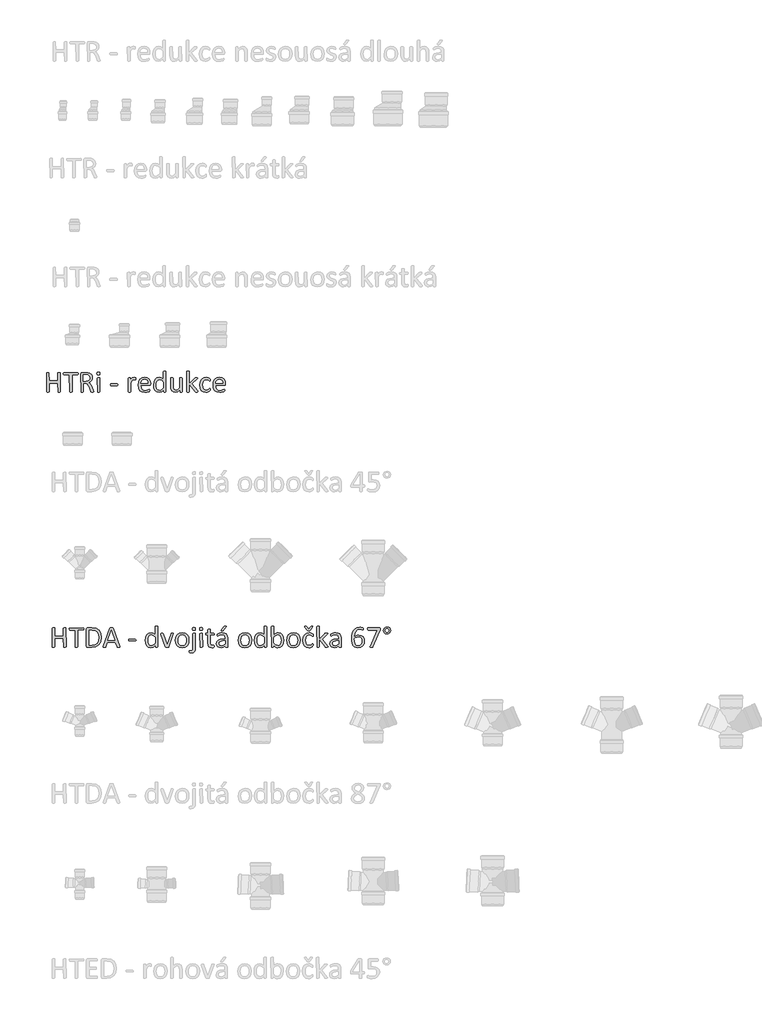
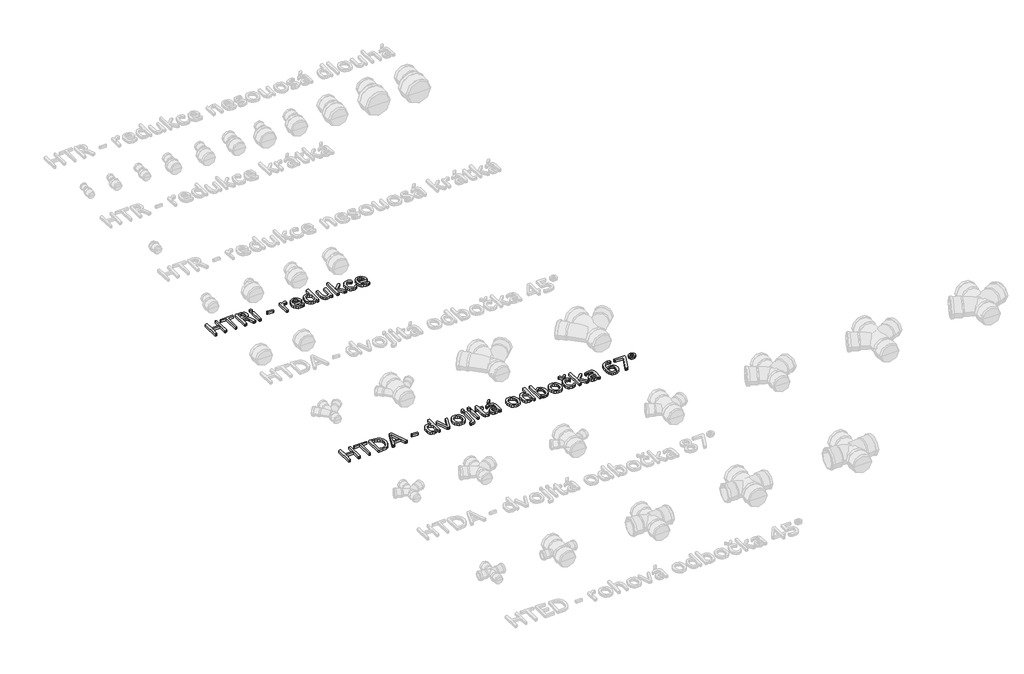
# One storey, part 18 of 26: 2 proxies.
"""IFC4 building model written with IfcOpenShell, lengths in millimetres."""

from ifc_helpers import new_model, si_unit, origin, origin_with_axes, place, context, project, spatial, polyline, outline, extrude, element, save

model = new_model("IFC4")

# Units and contexts
model_context = context("Model", 3, world=origin())
ifc_project = project(units=[si_unit("LENGTHUNIT", "METRE", prefix="MILLI")], contexts=[model_context])

# Site, building, storey
site = spatial("IfcSite", under=ifc_project)
building = spatial("IfcBuilding", under=site)
storey = spatial("IfcBuildingStorey", under=building, Name="Podlaží 1", Elevation=0.0)

# Proxies
placement = place(None, origin())
element("IfcBuildingElementProxy", 1, Name="120mm Arial", ObjectType="120mm Arial", at=placement, inside=storey, context=model_context, shape_type="SweptSolid", body=[
    extrude(outline(polyline([(-20500.0657483, 12541.6352271), (-20504.2817655, 12538.9029584), (-20508.1358927, 12538.66773), (-20512.1166815, 12538.9029584), (-20514.5775327, 12539.4457933), (-20516.2784151, 12594.2540162), (-20569.5486061, 12594.2540162), (-20569.5486061, 12541.5990381), (-20573.7465288, 12538.9029584), (-20577.6549395, 12538.66773), (-20581.5271613, 12538.9029584), (-20584.0603905, 12539.4638877), (-20585.7612729, 12656.1371865), (-20581.5271613, 12658.8694551), (-20577.6549395, 12659.1046835), (-20573.7465288, 12658.8694551), (-20571.2494886, 12658.3085258), (-20569.5486061, 12608.1505878), (-20516.2784151, 12608.1505878), (-20516.2784151, 12656.1371865), (-20512.1166815, 12658.8694551), (-20508.1358927, 12659.1046835), (-20504.2817655, 12658.8694551), (-20501.7666308, 12658.3085258), (-20500.0657483, 12541.6352271)])), origin_with_axes(), (0.0, 0.0, 1.0), 15.0),
    extrude(outline(polyline([(-20391.2092711, 12652.0478308), (-20391.390216, 12648.9174833), (-20391.9873343, 12646.782333), (-20428.2667952, 12645.208112), (-20428.2667952, 12541.6352271), (-20432.4647179, 12538.9029584), (-20436.3731287, 12538.66773), (-20440.2453504, 12538.9029584), (-20442.7785796, 12539.4638877), (-20444.4794621, 12645.208112), (-20478.3885442, 12645.208112), (-20481.3017578, 12648.9174833), (-20481.5369862, 12652.0478308), (-20481.3017578, 12655.2505563), (-20480.686545, 12657.4942735), (-20394.3939021, 12659.1046835), (-20392.0054288, 12657.4942735), (-20391.390216, 12655.2505563), (-20391.2092711, 12652.0478308)])), origin_with_axes(), (0.0, 0.0, 1.0), 15.0),
    extrude(outline(polyline([(-20295.4893967, 12541.5990381), (-20299.5606579, 12538.8486749), (-20304.0299979, 12538.66773), (-20307.9565032, 12538.8486749), (-20310.4173544, 12539.4457933), (-20311.8468194, 12540.5857464), (-20312.7153552, 12542.4313848), (-20323.7529966, 12570.2969059), (-20327.7518799, 12579.0184521), (-20332.6012043, 12585.8762654), (-20339.2056947, 12590.3456055), (-20348.3615088, 12591.937921), (-20358.7839374, 12591.937921), (-20358.7839374, 12541.5990381), (-20362.9818601, 12538.9029584), (-20366.8902709, 12538.66773), (-20370.7986816, 12538.9029584), (-20373.2957218, 12539.4638877), (-20374.9966043, 12652.6268546), (-20373.1328714, 12657.6752185), (-20369.1339881, 12659.1046835), (-20344.0188302, 12659.1046835), (-20336.6000875, 12658.8694551), (-20331.2441172, 12658.3447148), (-20319.1389006, 12654.544871), (-20310.3087874, 12647.9222861), (-20304.9709116, 12638.730283), (-20303.1976512, 12627.3307517), (-20304.7718722, 12616.4740551), (-20309.3316847, 12607.9877374), (-20316.47901, 12601.6184754), (-20325.815769, 12597.0405684), (-20320.4236097, 12593.7654649), (-20315.9180806, 12589.0247074), (-20311.9915754, 12582.6735399), (-20308.2641096, 12574.5672065), (-20297.51598, 12548.3301899), (-20295.8512866, 12543.6979994), (-20295.4893967, 12541.5990381)]), holes=[polyline([(-20319.410318, 12625.5936802), (-20322.5044765, 12637.2103455), (-20332.9088107, 12644.0500643), (-20338.0476471, 12644.9366946), (-20345.5749567, 12645.208112), (-20358.7839374, 12645.208112), (-20358.7839374, 12605.8344925), (-20343.4759953, 12605.8344925), (-20332.7640548, 12607.3182411), (-20325.2367452, 12611.4799747), (-20320.8216886, 12617.7587642), (-20319.410318, 12625.5936802)])]), origin_with_axes(), (0.0, 0.0, 1.0), 15.0),
    extrude(outline(polyline([(-20256.875746, 12652.2649647), (-20258.8661404, 12644.8643166), (-20266.248694, 12642.8920167), (-20273.4503027, 12644.8100331), (-20275.4045081, 12652.0478308), (-20273.4141137, 12659.4484789), (-20266.0315601, 12661.4207788), (-20258.8299514, 12659.5027624), (-20256.875746, 12652.2649647)])), origin_with_axes(), (0.0, 0.0, 1.0), 15.0),
    extrude(outline(polyline([(-20256.875746, 12541.4904711), (-20261.0012907, 12538.8486749), (-20265.0182684, 12538.66773), (-20268.9628681, 12538.8486749), (-20271.4599083, 12539.3915098), (-20273.0884128, 12623.8566088), (-20268.9628681, 12626.4984049), (-20265.0182684, 12626.6793499), (-20261.0012907, 12626.4984049), (-20258.558534, 12625.9555701), (-20256.875746, 12541.4904711)])), origin_with_axes(), (0.0, 0.0, 1.0), 15.0),
    extrude(outline(polyline([(-20145.7031735, 12583.8677766), (-20146.5536148, 12579.307964), (-20149.0325605, 12578.0413494), (-20188.6233138, 12578.0413494), (-20191.1746375, 12579.344153), (-20192.0250787, 12583.8677766), (-20191.1746375, 12588.3552111), (-20188.6233138, 12589.6218257), (-20149.0325605, 12589.6218257), (-20145.9384019, 12586.5819507), (-20145.7031735, 12583.8677766)])), origin_with_axes(), (0.0, 0.0, 1.0), 15.0),
    extrude(outline(polyline([(-20034.530601, 12619.7310641), (-20034.6210735, 12616.4378662), (-20034.9829634, 12614.3027158), (-20038.5294843, 12613.0903847), (-20040.863674, 12613.9227315), (-20043.7768876, 12614.7188892), (-20047.269125, 12615.0988736), (-20051.6841816, 12614.1036764), (-20056.2258996, 12610.8466674), (-20061.2018855, 12604.8392954), (-20066.9559347, 12595.6653868), (-20066.9559347, 12541.4904711), (-20071.0814794, 12538.8486749), (-20075.0984571, 12538.66773), (-20079.0430568, 12538.8486749), (-20081.540097, 12539.3915098), (-20083.1686015, 12623.8566088), (-20079.4411357, 12626.5345939), (-20075.7860479, 12626.6793499), (-20072.203338, 12626.5345939), (-20069.9958097, 12625.9917591), (-20068.5120612, 12611.8418646), (-20062.2513662, 12620.4186549), (-20056.6963565, 12625.6479637), (-20051.5213311, 12628.2716654), (-20046.3282113, 12628.9954451), (-20043.6864151, 12628.8687837), (-20040.5741621, 12628.3802323), (-20037.642854, 12627.5659801), (-20035.7972156, 12626.6793499), (-20034.56679, 12622.9880731), (-20034.530601, 12619.7310641)])), origin_with_axes(), (0.0, 0.0, 1.0), 15.0),
    extrude(outline(polyline([(-19944.2028859, 12586.9800296), (-19945.9942408, 12581.8773822), (-19950.101691, 12580.3574447), (-20004.4213627, 12580.3574447), (-20003.0642756, 12566.967519), (-19998.5587465, 12556.7622242), (-19990.3438462, 12550.2120173), (-19977.9672121, 12547.932111), (-19967.6895394, 12548.9996862), (-19959.8727179, 12551.4062539), (-19954.4624641, 12553.8128217), (-19951.2597386, 12554.8803968), (-19948.9617379, 12551.9852777), (-19948.8350764, 12549.3434816), (-19948.9255489, 12547.4073707), (-19953.3767945, 12542.0152114), (-19959.7279619, 12539.5181712), (-19968.7752091, 12537.3287374), (-19979.7404725, 12536.3516347), (-19997.4187934, 12539.2467538), (-20010.1754118, 12547.8597331), (-20017.9922333, 12562.208667), (-20020.6340295, 12582.2392721), (-20017.8655719, 12601.7813258), (-20009.8858999, 12616.4740551), (-19997.2921319, 12625.7565307), (-19980.7537642, 12628.9954451), (-19964.1068295, 12625.8650976), (-19952.7977707, 12617.4330633), (-19946.2837527, 12605.0021458), (-19944.2028859, 12589.7665817), (-19944.2028859, 12586.9800296)]), holes=[polyline([(-19960.4155527, 12591.937921), (-19961.5871712, 12602.5639127), (-19965.6086726, 12610.6295335), (-19972.380537, 12615.71861), (-19981.8032449, 12617.4149688), (-19991.4476103, 12615.3160075), (-19998.3778016, 12609.7248088), (-20002.7023857, 12601.6003809), (-20004.4213627, 12591.937921), (-19960.4155527, 12591.937921)])]), origin_with_axes(), (0.0, 0.0, 1.0), 15.0),
    extrude(outline(polyline([(-19849.5686811, 12541.5628491), (-19852.9523516, 12538.8486749), (-19856.263644, 12538.66773), (-19859.7015979, 12538.8486749), (-19861.9453152, 12539.3191318), (-19863.6100087, 12551.6233879), (-19877.0542179, 12540.386707), (-19892.3078765, 12536.3516347), (-19907.7243856, 12539.9524391), (-19918.0563418, 12549.687277), (-19923.8465799, 12564.1266834), (-19925.6741238, 12581.5878703), (-19923.3942176, 12601.2203965), (-19916.6630657, 12616.1664487), (-19905.6254242, 12625.6660582), (-19890.3898601, 12628.9954451), (-19877.2351628, 12625.7565307), (-19865.4556471, 12616.2569212), (-19865.4556471, 12665.3653785), (-19863.7909536, 12667.5729068), (-19861.2939134, 12668.1338361), (-19857.4578806, 12668.3690646), (-19853.4409029, 12668.1338361), (-19850.9981462, 12667.5729068), (-19849.6772481, 12666.6500876), (-19849.5686811, 12541.5628491)]), holes=[polyline([(-19865.4556471, 12599.7547425), (-19877.0723124, 12611.1723683), (-19888.7613556, 12615.0988736), (-19898.3514376, 12612.3485105), (-19904.7568885, 12605.0926183), (-19908.3395984, 12594.8873235), (-19909.461457, 12583.3249417), (-19908.5205433, 12571.0930636), (-19905.2454398, 12560.48969), (-19899.0571228, 12553.0528529), (-19889.3765684, 12550.2482063), (-19883.6948972, 12551.0624585), (-19878.085604, 12553.7585382), (-19872.0963264, 12558.6440516), (-19865.4556471, 12566.0627943), (-19865.4556471, 12599.7547425)])]), origin_with_axes(), (0.0, 0.0, 1.0), 15.0),
    extrude(outline(polyline([(-19749.6508841, 12541.4904711), (-19753.5050113, 12538.8486749), (-19756.9610597, 12538.66773), (-19760.6523365, 12538.8486749), (-19762.8960538, 12539.3915098), (-19764.3074244, 12552.3833566), (-19778.1859014, 12540.1876675), (-19792.0643785, 12536.3516347), (-19805.8885721, 12539.1381869), (-19814.9720082, 12546.6835909), (-19819.9479941, 12557.7936104), (-19821.4498371, 12573.228214), (-19821.4498371, 12623.8204198), (-19819.7851437, 12625.9736646), (-19817.2519145, 12626.5345939), (-19813.3435037, 12626.6793499), (-19809.435093, 12626.5345939), (-19806.9561473, 12625.9917591), (-19805.6352492, 12625.0870344), (-19805.2371703, 12575.7614432), (-19804.2238786, 12564.1628724), (-19801.1116256, 12556.7260352), (-19795.8280333, 12551.9490888), (-19788.3731017, 12550.2482063), (-19777.4259327, 12554.3194675), (-19765.8635509, 12566.2799282), (-19765.8635509, 12623.8566088), (-19764.1988574, 12625.9917591), (-19761.7018172, 12626.5345939), (-19757.7572175, 12626.6793499), (-19753.8488067, 12626.5345939), (-19751.40605, 12625.9917591), (-19750.0851519, 12625.0870344), (-19749.6508841, 12541.4904711)])), origin_with_axes(), (0.0, 0.0, 1.0), 15.0),
    extrude(outline(polyline([(-19652.3748831, 12541.5990381), (-19656.4461443, 12538.8486749), (-19660.4450276, 12538.66773), (-19664.5705722, 12538.812486), (-19667.3209354, 12539.2648483), (-19669.1303848, 12540.169573), (-19670.3969994, 12541.5990381), (-19705.6450741, 12587.1609745), (-19705.6450741, 12541.4904711), (-19709.7706188, 12538.8486749), (-19713.7875965, 12538.66773), (-19717.7321963, 12538.8486749), (-19720.2292365, 12539.4096043), (-19721.8577409, 12665.4015675), (-19717.7321963, 12668.1881196), (-19713.7875965, 12668.3690646), (-19709.7706188, 12668.1881196), (-19707.3278621, 12667.6271903), (-19706.043153, 12666.6862766), (-19705.6450741, 12589.2599358), (-19673.4368744, 12623.4947189), (-19671.8264644, 12624.9965619), (-19669.7998811, 12625.9917591), (-19667.013329, 12626.5345939), (-19663.1230127, 12626.6793499), (-19659.142224, 12626.5345939), (-19656.5547113, 12626.0822316), (-19655.1252463, 12625.2679793), (-19655.3242857, 12621.739553), (-19657.4413415, 12619.1882293), (-19689.4324073, 12589.3685028), (-19654.6547894, 12545.9055277), (-19652.8996235, 12543.390393), (-19652.3748831, 12541.5990381)])), origin_with_axes(), (0.0, 0.0, 1.0), 15.0),
    extrude(outline(polyline([(-19575.9437396, 12555.3146647), (-19576.034212, 12552.7814355), (-19576.3599129, 12550.9719861), (-19578.3503073, 12547.3349927), (-19582.2406235, 12543.8065664), (-19588.4108461, 12540.0610061), (-19595.8476832, 12537.3830209), (-19604.1711505, 12536.3516347), (-19619.8771715, 12539.3553208), (-19631.3309864, 12548.1311505), (-19638.3697446, 12562.281045), (-19640.7944068, 12581.6240593), (-19637.8269098, 12603.0660349), (-19629.7024819, 12617.7406697), (-19617.5610763, 12626.2269875), (-19602.4340791, 12628.9954451), (-19594.7982025, 12628.1811929), (-19587.9946727, 12626.0460426), (-19582.4577575, 12623.0061676), (-19578.9474256, 12620.056765), (-19577.4455826, 12618.1206541), (-19576.7579918, 12616.5826221), (-19576.3961019, 12614.6827002), (-19576.3056294, 12612.0228096), (-19577.1198817, 12607.2096741), (-19579.0921816, 12605.8344925), (-19582.2225291, 12607.2820521), (-19586.6918691, 12610.4666831), (-19593.2601705, 12613.651314), (-19602.3255121, 12615.0988736), (-19611.8477397, 12612.9999123), (-19618.8457854, 12606.7030283), (-19623.1477514, 12596.4072611), (-19624.58174, 12582.3116501), (-19623.0979915, 12568.3065115), (-19618.7191239, 12558.2459727), (-19611.6079877, 12552.2205062), (-19601.9636222, 12550.2482063), (-19592.9344696, 12552.0757502), (-19586.2033178, 12556.0927279), (-19581.4082768, 12560.0554222), (-19578.3684018, 12561.8286826), (-19576.070401, 12558.2640672), (-19575.9437396, 12555.3146647)])), origin_with_axes(), (0.0, 0.0, 1.0), 15.0),
    extrude(outline(polyline([(-19483.2999292, 12586.9800296), (-19485.0912841, 12581.8773822), (-19489.1987343, 12580.3574447), (-19543.5184059, 12580.3574447), (-19542.1613189, 12566.967519), (-19537.6557898, 12556.7622242), (-19529.4408894, 12550.2120173), (-19517.0642554, 12547.932111), (-19506.7865827, 12548.9996862), (-19498.9697612, 12551.4062539), (-19493.5595074, 12553.8128217), (-19490.3567819, 12554.8803968), (-19488.0587811, 12551.9852777), (-19487.9321197, 12549.3434816), (-19488.0225922, 12547.4073707), (-19492.4738377, 12542.0152114), (-19498.8250052, 12539.5181712), (-19507.8722523, 12537.3287374), (-19518.8375158, 12536.3516347), (-19536.5158367, 12539.2467538), (-19549.2724551, 12547.8597331), (-19557.0892766, 12562.208667), (-19559.7310727, 12582.2392721), (-19556.9626151, 12601.7813258), (-19548.9829432, 12616.4740551), (-19536.3891752, 12625.7565307), (-19519.8508075, 12628.9954451), (-19503.2038728, 12625.8650976), (-19491.8948139, 12617.4330633), (-19485.380796, 12605.0021458), (-19483.2999292, 12589.7665817), (-19483.2999292, 12586.9800296)]), holes=[polyline([(-19499.512596, 12591.937921), (-19500.6842145, 12602.5639127), (-19504.7057158, 12610.6295335), (-19511.4775803, 12615.71861), (-19520.9002881, 12617.4149688), (-19530.5446536, 12615.3160075), (-19537.4748449, 12609.7248088), (-19541.799429, 12601.6003809), (-19543.5184059, 12591.937921), (-19499.512596, 12591.937921)])]), origin_with_axes(), (0.0, 0.0, 1.0), 15.0),
])
element("IfcBuildingElementProxy", 2, Name="120mm Arial", ObjectType="120mm Arial", at=placement, inside=storey, context=model_context, shape_type="SweptSolid", body=[
    extrude(outline(polyline([(-20465.0657483, 10968.0506997), (-20469.2817655, 10965.3184311), (-20473.1358927, 10965.0832026), (-20477.1166815, 10965.3184311), (-20479.5775327, 10965.8612659), (-20481.2784151, 11020.6694889), (-20534.5486061, 11020.6694889), (-20534.5486061, 10968.0145107), (-20538.7465288, 10965.3184311), (-20542.6549395, 10965.0832026), (-20546.5271613, 10965.3184311), (-20549.0603905, 10965.8793604), (-20550.7612729, 11082.5526591), (-20546.5271613, 11085.2849277), (-20542.6549395, 11085.5201562), (-20538.7465288, 11085.2849277), (-20536.2494886, 11084.7239984), (-20534.5486061, 11034.5660604), (-20481.2784151, 11034.5660604), (-20481.2784151, 11082.5526591), (-20477.1166815, 11085.2849277), (-20473.1358927, 11085.5201562), (-20469.2817655, 11085.2849277), (-20466.7666308, 11084.7239984), (-20465.0657483, 10968.0506997)])), origin_with_axes(), (0.0, 0.0, 1.0), 15.0),
    extrude(outline(polyline([(-20356.2092711, 11078.4633034), (-20356.390216, 11075.3329559), (-20356.9873343, 11073.1978056), (-20393.2667952, 11071.6235846), (-20393.2667952, 10968.0506997), (-20397.4647179, 10965.3184311), (-20401.3731287, 10965.0832026), (-20405.2453504, 10965.3184311), (-20407.7785796, 10965.8793604), (-20409.4794621, 11071.6235846), (-20443.3885442, 11071.6235846), (-20446.3017578, 11075.3329559), (-20446.5369862, 11078.4633034), (-20446.3017578, 11081.6660289), (-20445.686545, 11083.9097462), (-20359.3939021, 11085.5201562), (-20357.0054288, 11083.9097462), (-20356.390216, 11081.6660289), (-20356.2092711, 11078.4633034)])), origin_with_axes(), (0.0, 0.0, 1.0), 15.0),
    extrude(outline(polyline([(-20247.3527939, 11027.0749398), (-20251.3516771, 10999.7522536), (-20263.0407204, 10980.3911447), (-20281.8951833, 10968.9011409), (-20308.5121843, 10965.0832026), (-20334.0254212, 10965.0832026), (-20338.0966824, 10966.5307622), (-20339.9966043, 10971.5972206), (-20339.9966043, 11079.0061382), (-20338.0966824, 11084.0725966), (-20334.0254212, 11085.5201562), (-20306.7389239, 11085.5201562), (-20280.3028678, 11081.4669895), (-20262.1902791, 11069.8322297), (-20251.1164487, 11051.4482235), (-20247.3527939, 11027.0749398)]), holes=[polyline([(-20263.5654607, 11026.3511601), (-20266.0082174, 11044.3370873), (-20273.644094, 11058.7403047), (-20286.8168858, 11068.2218197), (-20307.3541367, 11071.6235846), (-20323.7839374, 11071.6235846), (-20323.7839374, 10978.9797742), (-20307.1731918, 10978.9797742), (-20287.5768545, 10981.8387043), (-20274.2593068, 10990.578345), (-20266.2434458, 11005.3434523), (-20263.5654607, 11026.3511601)])]), origin_with_axes(), (0.0, 0.0, 1.0), 15.0),
    extrude(outline(polyline([(-20134.5879059, 10971.3438976), (-20133.8098426, 10968.0506997), (-20134.4974334, 10966.1145888), (-20136.9582846, 10965.2641476), (-20141.5361917, 10965.0832026), (-20146.1502877, 10965.2279586), (-20148.7378004, 10965.6984154), (-20150.8367617, 10967.9783217), (-20161.1144344, 10997.5085363), (-20211.0190495, 10997.5085363), (-20220.8262653, 10968.3764006), (-20221.5862341, 10966.928841), (-20222.9252267, 10965.8793604), (-20225.4222669, 10965.2641476), (-20229.6563785, 10965.0832026), (-20234.0533406, 10965.3184311), (-20236.4599083, 10966.2050613), (-20237.1113101, 10968.1230777), (-20236.3151524, 10971.4162756), (-20196.0729972, 11082.2269582), (-20195.1139891, 11083.8735572), (-20193.3407286, 11084.8687544), (-20190.3732316, 11085.3754002), (-20185.7953245, 11085.5201562), (-20180.8736221, 11085.3754002), (-20177.7070856, 11084.8687544), (-20175.8614472, 11083.8373682), (-20174.830061, 11082.1545802), (-20134.5879059, 10971.3438976)]), holes=[polyline([(-20186.2295924, 11069.3074893), (-20207.0020718, 11009.0890126), (-20165.2761681, 11009.0890126), (-20186.2295924, 11069.3074893)])]), origin_with_axes(), (0.0, 0.0, 1.0), 15.0),
    extrude(outline(polyline([(-20034.2720299, 11010.2832492), (-20035.1224712, 11005.7234367), (-20037.6014169, 11004.4568221), (-20077.1921702, 11004.4568221), (-20079.7434939, 11005.7596256), (-20080.5939351, 11010.2832492), (-20079.7434939, 11014.7706838), (-20077.1921702, 11016.0372984), (-20037.6014169, 11016.0372984), (-20034.5072584, 11012.9974233), (-20034.2720299, 11010.2832492)])), origin_with_axes(), (0.0, 0.0, 1.0), 15.0),
    extrude(outline(polyline([(-19900.2642058, 10967.9783217), (-19903.6478762, 10965.2641476), (-19906.9591686, 10965.0832026), (-19910.3971225, 10965.2641476), (-19912.6408398, 10965.7346044), (-19914.3055333, 10978.0388605), (-19927.7497425, 10966.8021796), (-19943.0034011, 10962.7671074), (-19958.4199102, 10966.3679117), (-19968.7518664, 10976.1027496), (-19974.5421045, 10990.542156), (-19976.3696484, 11008.0033429), (-19974.0897422, 11027.6358691), (-19967.3585903, 11042.5819214), (-19956.3209488, 11052.0815308), (-19941.0853847, 11055.4109178), (-19927.9306874, 11052.1720033), (-19916.1511717, 11042.6723938), (-19916.1511717, 11091.7808512), (-19914.4864782, 11093.9883794), (-19911.989438, 11094.5493088), (-19908.1534052, 11094.7845372), (-19904.1364275, 11094.5493088), (-19901.6936708, 11093.9883794), (-19900.3727727, 11093.0655602), (-19900.2642058, 10967.9783217)]), holes=[polyline([(-19916.1511717, 11026.1702151), (-19927.767837, 11037.587841), (-19939.4568802, 11041.5143462), (-19949.0469622, 11038.7639831), (-19955.4524131, 11031.5080909), (-19959.035123, 11021.3027962), (-19960.1569816, 11009.7404144), (-19959.2160679, 10997.5085363), (-19955.9409645, 10986.9051627), (-19949.7526474, 10979.4683255), (-19940.072093, 10976.6636789), (-19934.3904219, 10977.4779312), (-19928.7811286, 10980.1740108), (-19922.7918511, 10985.0595243), (-19916.1511717, 10992.4782669), (-19916.1511717, 11026.1702151)])]), origin_with_axes(), (0.0, 0.0, 1.0), 15.0),
    extrude(outline(polyline([(-19803.6305594, 11051.502507), (-19832.1203405, 10968.3764006), (-19833.0974432, 10966.7298016), (-19834.9068926, 10965.7346044), (-19837.9648622, 10965.2279586), (-19842.6151472, 10965.0832026), (-19847.2292432, 10965.2641476), (-19850.2510237, 10965.8069824), (-19852.0604732, 10966.8202741), (-19853.0737648, 10968.3764006), (-19881.4459318, 11046.6169936), (-19882.0430501, 11048.5169155), (-19878.4422457, 11053.00435), (-19874.8595359, 11053.0948225), (-19870.5530463, 11052.9500666), (-19868.056006, 11052.4434207), (-19865.9570447, 11050.1635145), (-19842.3980132, 10982.2729721), (-19818.4770919, 11050.1635145), (-19816.504792, 11052.4434207), (-19814.0801298, 11052.9500666), (-19810.0450576, 11053.0948225), (-19806.5166312, 11053.00435), (-19803.6305594, 11051.502507)])), origin_with_axes(), (0.0, 0.0, 1.0), 15.0),
    extrude(outline(polyline([(-19707.7025983, 11009.9937373), (-19710.3805834, 10991.0126129), (-19718.3964444, 10976.0665606), (-19731.7501811, 10966.2774393), (-19750.3332267, 10962.7671074), (-19768.2467759, 10965.8612659), (-19780.9852999, 10974.8542295), (-19788.5849874, 10989.1850689), (-19791.0820276, 11008.2928548), (-19788.4402315, 11027.2739793), (-19780.478654, 11042.201937), (-19767.1792008, 11051.9367749), (-19748.5599662, 11055.4109178), (-19730.6283225, 11052.3167593), (-19717.8897985, 11043.3237956), (-19710.253922, 11028.9929562), (-19707.7025983, 11009.9937373)]), holes=[polyline([(-19723.9152651, 11008.9080676), (-19725.1637852, 11021.4837411), (-19729.2712354, 11031.8699808), (-19736.9975844, 11038.9268335), (-19749.175179, 11041.5143462), (-19760.7375608, 11039.1439675), (-19768.6991383, 11032.4490046), (-19773.3494233, 11022.2075209), (-19774.8693608, 11009.2699575), (-19773.6208407, 10996.6219061), (-19769.4772015, 10986.2718554), (-19761.696569, 10979.2511916), (-19749.5370689, 10976.6636789), (-19738.0108761, 10979.0340577), (-19729.9950152, 10985.6747371), (-19725.3809191, 10995.8800318), (-19723.9152651, 11008.9080676)])]), origin_with_axes(), (0.0, 0.0, 1.0), 15.0),
    extrude(outline(polyline([(-19668.3289789, 10963.7080211), (-19669.7946329, 10948.327701), (-19674.3725399, 10938.4481071), (-19682.3703064, 10932.3864516), (-19694.1679166, 10930.3417737), (-19699.4876979, 10930.7398526), (-19702.8532738, 10931.6264828), (-19704.4636838, 10932.7483415), (-19705.0969911, 10934.23209), (-19705.3322195, 10935.9691614), (-19705.386503, 10938.1224062), (-19705.2417471, 10941.1803758), (-19704.7531957, 10943.2612426), (-19700.5733676, 10944.4735737), (-19696.6287678, 10944.2383453), (-19691.1099471, 10945.1611645), (-19687.3643868, 10948.182945), (-19685.2292365, 10953.6293878), (-19684.5416457, 10963.7803991), (-19684.5416457, 11050.2358924), (-19682.8226687, 11052.3529483), (-19680.343723, 11052.9138776), (-19676.4353123, 11053.0948225), (-19672.5269015, 11052.9138776), (-19670.0479558, 11052.3529483), (-19668.7270577, 11051.430129), (-19668.3289789, 10963.7080211)])), origin_with_axes(), (0.0, 0.0, 1.0), 15.0),
    extrude(outline(polyline([(-19668.3289789, 11078.6804373), (-19670.3374677, 11071.2797892), (-19677.7381159, 11069.3074893), (-19684.9397246, 11071.2255057), (-19686.8577409, 11078.4633034), (-19684.9035356, 11085.8639515), (-19677.5571709, 11087.8362514), (-19670.2469952, 11085.918235), (-19668.3289789, 11078.6804373)])), origin_with_axes(), (0.0, 0.0, 1.0), 15.0),
    extrude(outline(polyline([(-19624.3231689, 10967.9059437), (-19628.4487136, 10965.2641476), (-19632.4656913, 10965.0832026), (-19636.4102911, 10965.2641476), (-19638.9073313, 10965.8069824), (-19640.5358357, 11050.2720814), (-19636.4102911, 11052.9138776), (-19632.4656913, 11053.0948225), (-19628.4487136, 11052.9138776), (-19626.0059569, 11052.3710427), (-19624.3231689, 10967.9059437)])), origin_with_axes(), (0.0, 0.0, 1.0), 15.0),
    extrude(outline(polyline([(-19624.3231689, 11078.6804373), (-19626.3135633, 11071.2797892), (-19633.6961169, 11069.3074893), (-19640.8977256, 11071.2255057), (-19642.851931, 11078.4633034), (-19640.8615366, 11085.8639515), (-19633.478983, 11087.8362514), (-19626.2773743, 11085.918235), (-19624.3231689, 11078.6804373)])), origin_with_axes(), (0.0, 0.0, 1.0), 15.0),
    extrude(outline(polyline([(-19552.5242159, 10973.40667), (-19552.8861057, 10968.8830464), (-19553.9898699, 10966.4221952), (-19556.1973982, 10964.9384467), (-19559.5448796, 10963.7984935), (-19563.5437628, 10963.0566193), (-19567.75978, 10962.7671074), (-19578.779327, 10964.5222733), (-19586.2885421, 10969.8239601), (-19590.5588427, 10978.8169237), (-19591.8978353, 10991.6821091), (-19591.8978353, 11041.5143462), (-19602.8992878, 11041.5143462), (-19605.0163436, 11042.8714333), (-19605.7944068, 11047.2683954), (-19605.5772729, 11049.964475), (-19605.0163436, 11051.7920189), (-19591.8978353, 11053.0948225), (-19591.8978353, 11073.2520891), (-19590.2693308, 11075.4596174), (-19587.7722906, 11076.0748302), (-19583.8276909, 11076.2557751), (-19579.8107131, 11076.0748302), (-19577.3679564, 11075.4596174), (-19576.0832473, 11074.4644202), (-19575.6851685, 11053.0948225), (-19555.4193349, 11053.0948225), (-19552.7051608, 11049.964475), (-19552.5242159, 11047.2683954), (-19553.3203736, 11042.8714333), (-19555.4193349, 11041.5143462), (-19575.6851685, 11041.5143462), (-19575.6851685, 10994.3239053), (-19573.2786007, 10981.133019), (-19564.647527, 10976.6636789), (-19561.0467226, 10977.0798523), (-19558.242076, 10977.948388), (-19556.1250202, 10978.8350182), (-19554.5507992, 10979.2692861), (-19552.7051608, 10976.337978), (-19552.5242159, 10973.40667)])), origin_with_axes(), (0.0, 0.0, 1.0), 15.0),
    extrude(outline(polyline([(-19494.6580233, 11091.4913392), (-19493.3190308, 11093.0836547), (-19491.4552979, 11094.0607574), (-19488.7230292, 11094.6035923), (-19484.8146185, 11094.7845372), (-19480.4719399, 11094.4769308), (-19478.1558446, 11093.5903006), (-19478.4091675, 11090.6589925), (-19495.707504, 11069.8503242), (-19497.1007801, 11068.4208591), (-19498.5302451, 11067.5704179), (-19500.6292064, 11067.1180555), (-19503.8500264, 11066.9913941), (-19507.1794133, 11067.2628115), (-19508.9164848, 11067.9865913), (-19508.5184059, 11070.8274268), (-19494.6580233, 11091.4913392)])), origin_with_axes(), (0.0, 0.0, 1.0), 15.0),
    extrude(outline(polyline([(-19469.1447865, 10967.8697547), (-19469.9409442, 10966.1869668), (-19472.1122836, 10965.35462), (-19476.1654503, 10965.0832026), (-19480.2729004, 10965.35462), (-19482.4985232, 10966.1869668), (-19483.186114, 10967.8697547), (-19483.186114, 10976.1932221), (-19495.3818031, 10966.5669512), (-19509.6402646, 10962.7671074), (-19521.6007252, 10964.4860843), (-19530.7022558, 10969.4620702), (-19536.5467775, 10977.4598367), (-19538.6276443, 10988.2441552), (-19535.7506197, 11000.5122223), (-19527.4995304, 11009.1613906), (-19514.3448331, 11014.3183214), (-19496.8293627, 11016.0372984), (-19485.3574533, 11016.0372984), (-19485.3574533, 11022.9493951), (-19486.370745, 11031.9966423), (-19489.627754, 11038.5468492), (-19495.4360866, 11042.4914489), (-19504.2119163, 11043.8304415), (-19514.2543606, 11042.3828819), (-19522.0349931, 11039.198251), (-19527.6261918, 11036.01362), (-19530.9555788, 11034.5660604), (-19533.8145088, 11038.0944868), (-19533.9954538, 11040.7543775), (-19533.6697529, 11044.5542212), (-19532.0774374, 11047.2141119), (-19527.7347588, 11049.928286), (-19520.641717, 11052.6062712), (-19511.8658874, 11054.61476), (-19502.2577109, 11055.4109178), (-19486.8773908, 11053.3662399), (-19476.6178126, 11047.3950568), (-19470.9180469, 11037.6421245), (-19469.1447865, 11024.0350648), (-19469.1447865, 10967.8697547)]), holes=[polyline([(-19485.3574533, 11004.4568221), (-19498.2407332, 11004.4568221), (-19508.9888628, 11003.3892469), (-19516.5704558, 11000.2408049), (-19521.0036069, 10995.2467245), (-19522.4149775, 10988.5336671), (-19518.3618108, 10978.1836164), (-19506.9984684, 10974.3475837), (-19495.9970159, 10977.4055532), (-19485.3574533, 10986.7604067), (-19485.3574533, 11004.4568221)])]), origin_with_axes(), (0.0, 0.0, 1.0), 15.0),
    extrude(outline(polyline([(-19320.9146899, 11009.9937373), (-19323.592675, 10991.0126129), (-19331.6085359, 10976.0665606), (-19344.9622727, 10966.2774393), (-19363.5453182, 10962.7671074), (-19381.4588675, 10965.8612659), (-19394.1973914, 10974.8542295), (-19401.797079, 10989.1850689), (-19404.2941192, 11008.2928548), (-19401.6523231, 11027.2739793), (-19393.6907456, 11042.201937), (-19380.3912924, 11051.9367749), (-19361.7720578, 11055.4109178), (-19343.840414, 11052.3167593), (-19331.1018901, 11043.3237956), (-19323.4660135, 11028.9929562), (-19320.9146899, 11009.9937373)]), holes=[polyline([(-19337.1273567, 11008.9080676), (-19338.3758768, 11021.4837411), (-19342.483327, 11031.8699808), (-19350.209676, 11038.9268335), (-19362.3872706, 11041.5143462), (-19373.9496524, 11039.1439675), (-19381.9112299, 11032.4490046), (-19386.5615149, 11022.2075209), (-19388.0814524, 11009.2699575), (-19386.8329323, 10996.6219061), (-19382.6892931, 10986.2718554), (-19374.9086606, 10979.2511916), (-19362.7491605, 10976.6636789), (-19351.2229677, 10979.0340577), (-19343.2071067, 10985.6747371), (-19338.5930107, 10995.8800318), (-19337.1273567, 11008.9080676)])]), origin_with_axes(), (0.0, 0.0, 1.0), 15.0),
    extrude(outline(polyline([(-19228.5965804, 10967.9783217), (-19231.9802508, 10965.2641476), (-19235.2915432, 10965.0832026), (-19238.7294971, 10965.2641476), (-19240.9732144, 10965.7346044), (-19242.6379079, 10978.0388605), (-19256.0821171, 10966.8021796), (-19271.3357757, 10962.7671074), (-19286.7522848, 10966.3679117), (-19297.084241, 10976.1027496), (-19302.8744791, 10990.542156), (-19304.702023, 11008.0033429), (-19302.4221168, 11027.6358691), (-19295.6909649, 11042.5819214), (-19284.6533234, 11052.0815308), (-19269.4177593, 11055.4109178), (-19256.263062, 11052.1720033), (-19244.4835463, 11042.6723938), (-19244.4835463, 11091.7808512), (-19242.8188528, 11093.9883794), (-19240.3218126, 11094.5493088), (-19236.4857798, 11094.7845372), (-19232.4688021, 11094.5493088), (-19230.0260454, 11093.9883794), (-19228.7051473, 11093.0655602), (-19228.5965804, 10967.9783217)]), holes=[polyline([(-19244.4835463, 11026.1702151), (-19256.1002116, 11037.587841), (-19267.7892548, 11041.5143462), (-19277.3793368, 11038.7639831), (-19283.7847877, 11031.5080909), (-19287.3674976, 11021.3027962), (-19288.4893562, 11009.7404144), (-19287.5484425, 10997.5085363), (-19284.2733391, 10986.9051627), (-19278.085022, 10979.4683255), (-19268.4044676, 10976.6636789), (-19262.7227965, 10977.4779312), (-19257.1135032, 10980.1740108), (-19251.1242257, 10985.0595243), (-19244.4835463, 10992.4782669), (-19244.4835463, 11026.1702151)])]), origin_with_axes(), (0.0, 0.0, 1.0), 15.0),
    extrude(outline(polyline([(-19124.0465928, 11010.1746822), (-19126.362688, 10990.4516835), (-19133.1843123, 10975.5056313), (-19144.2581428, 10966.0422108), (-19159.2946675, 10962.7671074), (-19166.5324652, 10963.5632651), (-19173.0464831, 10966.1507778), (-19179.4157451, 10970.6563069), (-19186.1468969, 10977.2065138), (-19186.1468969, 10967.7611878), (-19190.0372132, 10965.2641476), (-19193.4208836, 10965.0832026), (-19196.7502705, 10965.2641476), (-19199.0120823, 10965.7707934), (-19200.4777363, 11091.8170401), (-19196.3521917, 11094.6035923), (-19192.4075919, 11094.7845372), (-19188.3906142, 11094.6035923), (-19185.9478575, 11094.0426629), (-19184.6631484, 11093.1017492), (-19184.2650695, 11041.5505352), (-19177.2263113, 11048.0102696), (-19170.5494429, 11052.2805703), (-19164.0173305, 11054.6690435), (-19157.1233282, 11055.4109178), (-19141.9058586, 11051.7558299), (-19131.6281858, 11041.9667086), (-19125.8560422, 11027.5815857), (-19124.0465928, 11010.1746822)]), holes=[polyline([(-19140.2592596, 11008.4014218), (-19141.2001733, 11020.7237724), (-19144.4933712, 11031.3090515), (-19150.6997827, 11038.7096996), (-19160.3441482, 11041.5143462), (-19165.9896304, 11040.700094), (-19171.653207, 11037.9859198), (-19177.6424846, 11033.1185009), (-19184.2650695, 11025.6273803), (-19184.2650695, 10992.00781), (-19172.5760263, 10980.5901842), (-19160.959361, 10976.6636789), (-19151.4235625, 10979.4321366), (-19144.9819226, 10986.7423122), (-19141.3811182, 10996.947607), (-19140.2592596, 11008.4014218)])]), origin_with_axes(), (0.0, 0.0, 1.0), 15.0),
    extrude(outline(polyline([(-19022.1384013, 11009.9937373), (-19024.8163865, 10991.0126129), (-19032.8322474, 10976.0665606), (-19046.1859841, 10966.2774393), (-19064.7690297, 10962.7671074), (-19082.682579, 10965.8612659), (-19095.4211029, 10974.8542295), (-19103.0207905, 10989.1850689), (-19105.5178307, 11008.2928548), (-19102.8760345, 11027.2739793), (-19094.9144571, 11042.201937), (-19081.6150038, 11051.9367749), (-19062.9957693, 11055.4109178), (-19045.0641255, 11052.3167593), (-19032.3256016, 11043.3237956), (-19024.689725, 11028.9929562), (-19022.1384013, 11009.9937373)]), holes=[polyline([(-19038.3510681, 11008.9080676), (-19039.5995882, 11021.4837411), (-19043.7070384, 11031.8699808), (-19051.4333875, 11038.9268335), (-19063.6109821, 11041.5143462), (-19075.1733639, 11039.1439675), (-19083.1349413, 11032.4490046), (-19087.7852263, 11022.2075209), (-19089.3051639, 11009.2699575), (-19088.0566438, 10996.6219061), (-19083.9130046, 10986.2718554), (-19076.1323721, 10979.2511916), (-19063.972872, 10976.6636789), (-19052.4466791, 10979.0340577), (-19044.4308182, 10985.6747371), (-19039.8167222, 10995.8800318), (-19038.3510681, 11008.9080676)])]), origin_with_axes(), (0.0, 0.0, 1.0), 15.0),
    extrude(outline(polyline([(-18941.0750672, 10981.7301373), (-18941.1655397, 10979.1969081), (-18941.4912406, 10977.3874587), (-18943.4816349, 10973.7504654), (-18947.3719512, 10970.222039), (-18953.5421737, 10966.4764787), (-18960.9790109, 10963.7984935), (-18969.3024782, 10962.7671074), (-18985.0084992, 10965.7707934), (-18996.462314, 10974.5466231), (-19003.5010723, 10988.6965176), (-19005.9257345, 11008.0395319), (-19002.9582374, 11029.4815076), (-18994.8338095, 11044.1561424), (-18982.6924039, 11052.6424602), (-18967.5654068, 11055.4109178), (-18959.9295302, 11054.5966655), (-18953.1260004, 11052.4615152), (-18947.5890851, 11049.4216402), (-18944.0787533, 11046.4722376), (-18942.5769102, 11044.5361267), (-18941.8893195, 11042.9980947), (-18941.5274296, 11041.0981728), (-18941.4369571, 11038.4382822), (-18942.2512093, 11033.6251467), (-18944.2235092, 11032.2499652), (-18947.3538567, 11033.6975247), (-18951.8231968, 11036.8821557), (-18958.3914982, 11040.0667867), (-18967.4568398, 11041.5143462), (-18976.9790674, 11039.4153849), (-18983.977113, 11033.1185009), (-18988.279079, 11022.8227337), (-18989.7130677, 11008.7271227), (-18988.2293192, 10994.7219842), (-18983.8504516, 10984.6614454), (-18976.7393153, 10978.6359788), (-18967.0949499, 10976.6636789), (-18958.0657973, 10978.4912229), (-18951.3346454, 10982.5082006), (-18946.5396045, 10986.4708948), (-18943.4997294, 10988.2441552), (-18941.2017287, 10984.6795399), (-18941.0750672, 10981.7301373)])), origin_with_axes(), (0.0, 0.0, 1.0), 15.0),
    extrude(outline(polyline([(-18958.4457817, 11092.1065521), (-18957.287734, 11093.3912611), (-18953.9945361, 11094.6578757), (-18951.099417, 11094.7845372), (-18947.3176677, 11094.4769308), (-18945.5082183, 11093.5903006), (-18946.8653054, 11089.7904568), (-18961.8113576, 11069.3074893), (-18962.9874997, 11068.1494417), (-18964.5798152, 11067.4799454), (-18966.8959105, 11067.1180555), (-18970.2433919, 11066.9913941), (-18973.3918339, 11067.1180555), (-18975.6174567, 11067.5161344), (-18977.1554887, 11068.2399142), (-18993.1872106, 11089.7904568), (-18994.5804866, 11092.0160796), (-18992.6805647, 11094.4769308), (-18988.9169099, 11094.7845372), (-18985.8046569, 11094.6578757), (-18983.9228295, 11094.2055134), (-18981.6067343, 11092.1065521), (-18970.026258, 11075.9300742), (-18958.4457817, 11092.1065521)])), origin_with_axes(), (0.0, 0.0, 1.0), 15.0),
    extrude(outline(polyline([(-18850.7473521, 10968.0145107), (-18854.8186133, 10965.2641476), (-18858.8174965, 10965.0832026), (-18862.9430412, 10965.2279586), (-18865.6934043, 10965.6803209), (-18867.5028537, 10966.5850457), (-18868.7694683, 10968.0145107), (-18904.0175431, 11013.5764471), (-18904.0175431, 10967.9059437), (-18908.1430877, 10965.2641476), (-18912.1600655, 10965.0832026), (-18916.1046652, 10965.2641476), (-18918.6017054, 10965.8250769), (-18920.2302099, 11091.8170401), (-18916.1046652, 11094.6035923), (-18912.1600655, 11094.7845372), (-18908.1430877, 11094.6035923), (-18905.700331, 11094.0426629), (-18904.4156219, 11093.1017492), (-18904.0175431, 11015.6754085), (-18871.8093433, 11049.9101915), (-18870.1989334, 11051.4120346), (-18868.17235, 11052.4072317), (-18865.3857979, 11052.9500666), (-18861.4954816, 11053.0948225), (-18857.5146929, 11052.9500666), (-18854.9271802, 11052.4977042), (-18853.4977152, 11051.683452), (-18853.6967546, 11048.1550256), (-18855.8138105, 11045.6037019), (-18887.8048762, 11015.7839754), (-18853.0272584, 10972.3210003), (-18851.2720924, 10969.8058656), (-18850.7473521, 10968.0145107)])), origin_with_axes(), (0.0, 0.0, 1.0), 15.0),
    extrude(outline(polyline([(-18769.684018, 10967.8697547), (-18770.4801757, 10966.1869668), (-18772.651515, 10965.35462), (-18776.7046817, 10965.0832026), (-18780.8121319, 10965.35462), (-18783.0377547, 10966.1869668), (-18783.7253455, 10967.8697547), (-18783.7253455, 10976.1932221), (-18795.9210346, 10966.5669512), (-18810.179496, 10962.7671074), (-18822.1399567, 10964.4860843), (-18831.2414873, 10969.4620702), (-18837.0860089, 10977.4598367), (-18839.1668758, 10988.2441552), (-18836.2898512, 11000.5122223), (-18828.0387618, 11009.1613906), (-18814.8840645, 11014.3183214), (-18797.3685941, 11016.0372984), (-18785.8966848, 11016.0372984), (-18785.8966848, 11022.9493951), (-18786.9099765, 11031.9966423), (-18790.1669854, 11038.5468492), (-18795.9753181, 11042.4914489), (-18804.7511478, 11043.8304415), (-18814.7935921, 11042.3828819), (-18822.5742246, 11039.198251), (-18828.1654233, 11036.01362), (-18831.4948102, 11034.5660604), (-18834.3537403, 11038.0944868), (-18834.5346853, 11040.7543775), (-18834.2089844, 11044.5542212), (-18832.6166689, 11047.2141119), (-18828.2739903, 11049.928286), (-18821.1809485, 11052.6062712), (-18812.4051188, 11054.61476), (-18802.7969424, 11055.4109178), (-18787.4166223, 11053.3662399), (-18777.1570441, 11047.3950568), (-18771.4572784, 11037.6421245), (-18769.684018, 11024.0350648), (-18769.684018, 10967.8697547)]), holes=[polyline([(-18785.8966848, 11004.4568221), (-18798.7799647, 11004.4568221), (-18809.5280942, 11003.3892469), (-18817.1096873, 11000.2408049), (-18821.5428384, 10995.2467245), (-18822.954209, 10988.5336671), (-18818.9010423, 10978.1836164), (-18807.5376999, 10974.3475837), (-18796.5362474, 10977.4055532), (-18785.8966848, 10986.7604067), (-18785.8966848, 11004.4568221)])]), origin_with_axes(), (0.0, 0.0, 1.0), 15.0),
    extrude(outline(polyline([(-18626.0861119, 11003.9501762), (-18628.4926796, 10988.4793837), (-18635.9114222, 10975.3246864), (-18648.6137572, 10966.2050613), (-18666.7625349, 10962.7671074), (-18680.0077046, 10964.6489348), (-18690.0139599, 10970.0049051), (-18697.0889072, 10978.5455063), (-18701.6306252, 10990.1078881), (-18704.0914764, 11004.3120661), (-18704.8333507, 11020.8504338), (-18704.0190985, 11036.6288328), (-18701.0877904, 11052.0453419), (-18695.3699302, 11065.9961969), (-18686.3407776, 11077.3595393), (-18673.3308363, 11085.0135103), (-18655.6887044, 11087.8362514), (-18648.8489856, 11087.456267), (-18642.4435346, 11086.4429754), (-18637.5037377, 11085.0496993), (-18634.8619416, 11083.8192737), (-18633.0343976, 11078.2099805), (-18633.0886811, 11075.4958064), (-18633.450571, 11073.5596955), (-18638.2998955, 11072.7454432), (-18642.4797236, 11074.1749083), (-18648.4328122, 11075.6043733), (-18656.5572401, 11076.2557751), (-18671.1052135, 11072.5644983), (-18681.0571853, 11062.6487155), (-18686.7750455, 11048.2093091), (-18688.9101958, 11031.3814295), (-18683.499942, 11034.1860761), (-18676.9135461, 11036.6831163), (-18669.3862365, 11038.4925657), (-18660.8637297, 11039.198251), (-18644.506307, 11036.5202658), (-18633.7219884, 11029.1015232), (-18627.8412778, 11017.9191258), (-18626.0861119, 11003.9501762)]), holes=[polyline([(-18642.2987787, 11003.4797194), (-18643.3663538, 11013.4497857), (-18646.9128747, 11021.0856622), (-18653.5535541, 11025.9168922), (-18663.7950378, 11027.6177747), (-18670.6166621, 11027.0025619), (-18677.2211525, 11025.3016794), (-18683.3189971, 11022.7503557), (-18688.6206839, 11019.5838192), (-18687.1007464, 10999.1189463), (-18682.6675953, 10985.9099655), (-18675.4297976, 10978.7988293), (-18665.2787863, 10976.6636789), (-18655.0373026, 10978.9435852), (-18647.8356939, 10985.0595243), (-18643.6377712, 10993.6725035), (-18642.2987787, 11003.4797194)])]), origin_with_axes(), (0.0, 0.0, 1.0), 15.0),
    extrude(outline(polyline([(-18528.8101109, 11078.7166263), (-18528.9548669, 11075.7129403), (-18529.3348513, 11073.1254276), (-18529.9862531, 11070.7369544), (-18530.9452613, 11068.2941977), (-18574.4444254, 10968.7021015), (-18575.602473, 10966.8926521), (-18577.3757334, 10965.7888879), (-18580.1260965, 10965.2279586), (-18584.2154522, 10965.0832026), (-18589.1733437, 10965.35462), (-18591.7427618, 10966.2412503), (-18592.4484471, 10967.7249988), (-18591.7789508, 10969.8239601), (-18546.0722584, 11071.6235846), (-18604.0108289, 11071.6235846), (-18606.6707196, 11073.469223), (-18607.5573498, 11078.6080594), (-18607.3221214, 11081.6660289), (-18606.6164361, 11083.8192737), (-18605.4945774, 11085.1039828), (-18533.6594354, 11085.5201562), (-18531.3795291, 11085.2487387), (-18529.8776861, 11084.1449746), (-18529.0815284, 11082.0279188), (-18528.8101109, 11078.7166263)])), origin_with_axes(), (0.0, 0.0, 1.0), 15.0),
    extrude(outline(polyline([(-18463.9594437, 11069.6693792), (-18465.7146096, 11061.4001954), (-18470.6544065, 11054.61476), (-18478.1455271, 11050.073042), (-18487.4822861, 11048.462632), (-18496.6742892, 11049.9463805), (-18503.8397089, 11054.1262087), (-18508.5804664, 11060.5859431), (-18510.2813489, 11068.9455995), (-18508.4718994, 11077.4500117), (-18503.4959135, 11084.1449746), (-18496.0590764, 11088.5419367), (-18486.7585064, 11090.1523467), (-18477.6207868, 11088.6324092), (-18470.4010836, 11084.452581), (-18465.6603261, 11078.0290355), (-18463.9594437, 11069.6693792)]), holes=[polyline([(-18475.53992, 11069.3436783), (-18476.4084557, 11073.9396799), (-18478.8331179, 11077.6128622), (-18482.5424892, 11080.0194299), (-18487.2289632, 11080.8879656), (-18491.7525868, 11080.0194299), (-18495.4076746, 11077.6128622), (-18497.8323368, 11073.9939633), (-18498.7008726, 11069.5246233), (-18497.8323368, 11064.7114878), (-18495.3533911, 11061.0021165), (-18491.5535473, 11058.5955488), (-18486.8308843, 11057.727013), (-18482.3977333, 11058.6317377), (-18478.7969289, 11061.1287779), (-18476.4084557, 11064.8019603), (-18475.53992, 11069.3436783)])]), origin_with_axes(), (0.0, 0.0, 1.0), 15.0),
])

save(model, "model.ifc")
